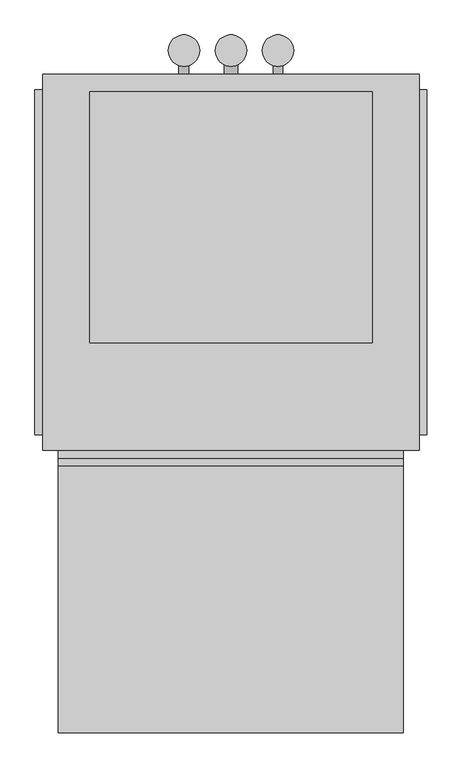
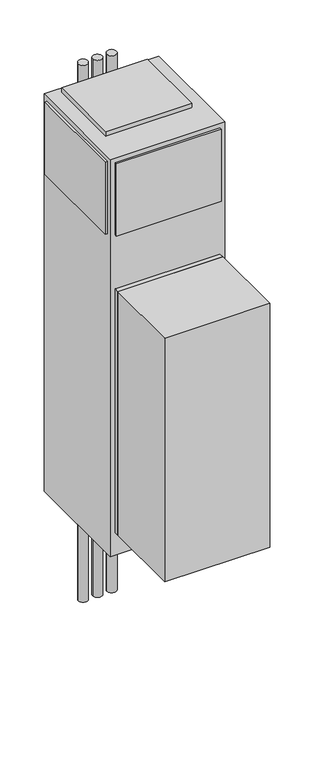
"""IFC4 building model written with IfcOpenShell, lengths in millimetres: proxy geometry, Concealed_Universal_Modular_Fan_Coil_Unit_-_MUY_-_IEC_-_2-Pipe_Cool-EHeat_-_WithRisers_2022 : Size 12 - 277v/60Hz/1Ph - 4 Row 8.0kW."""

from ifc_helpers import new_model, si_unit, point, frame, frame_2d, origin, origin_with_axes, place, context, project, spatial, polyline, circle_curve, trimmed, segment, composite_curve, outline, extrude, source, transform, mapped, element, save


def mechanical_equipment_03a785ce(model_context):
    return source(origin(), model_context, "Body", "SweptSolid", [
        extrude(outline(polyline([(1356.1480703, 341.3868862), (1346.2, 373.5602728), (1488.3709244, 373.5602728), (1465.3489183, 341.3868862), (1356.1480703, 341.3868862)])), frame((0.0, -393.7, 0.0), z_axis=(0.0, 1.0, 0.0), x_axis=(0.0, 0.0, 1.0)), (0.0, 0.0, 1.0), 3.175),
        extrude(outline(polyline([(1435.1473557, 380.3186058), (1431.9449632, 406.4), (1461.1738042, 406.4), (1469.2382193, 380.3186058), (1435.1473557, 380.3186058)])), frame((0.0, -393.7, 0.0), z_axis=(0.0, 1.0, 0.0), x_axis=(0.0, 0.0, 1.0)), (0.0, 0.0, 1.0), 3.175),
        extrude(outline(polyline([(1383.2838288, 406.4), (1379.6183279, 380.3186058), (1346.2, 380.3186058), (1354.8342372, 406.4), (1383.2838288, 406.4)])), frame((0.0, -393.7, 0.0), z_axis=(0.0, 1.0, 0.0), x_axis=(0.0, 0.0, 1.0)), (0.0, 0.0, 1.0), 3.175),
        extrude(outline(polyline([(1422.5989903, 406.4), (1424.8808166, 380.3186058), (1388.9432681, 380.3186058), (1391.6845331, 406.4), (1422.5989903, 406.4)])), frame((0.0, -393.7, 0.0), z_axis=(0.0, 1.0, 0.0), x_axis=(0.0, 0.0, 1.0)), (0.0, 0.0, 1.0), 3.175),
        extrude(outline(composite_curve([segment(trimmed(circle_curve(frame_2d((381.0, 282.575)), 25.4), [point((355.6, 282.575))], [point((406.4, 282.575))], False, "CARTESIAN"), True, "CONTINUOUS"), segment(trimmed(circle_curve(frame_2d((381.0, 282.575)), 25.4), [point((406.4, 282.575))], [point((355.6, 282.575))], False, "CARTESIAN"), True, "CONTINUOUS")], self_intersect=False)), frame((0.0, 0.0, -711.2), z_axis=(0.0, 0.0, 1.0), x_axis=(1.0, 0.0, 0.0)), (0.0, 0.0, 1.0), 3022.6),
        extrude(outline(composite_curve([segment(trimmed(circle_curve(frame_2d((457.2, 282.575)), 25.4), [point((431.8, 282.575))], [point((482.6, 282.575))], False, "CARTESIAN"), True, "CONTINUOUS"), segment(trimmed(circle_curve(frame_2d((457.2, 282.575)), 25.4), [point((482.6, 282.575))], [point((431.8, 282.575))], False, "CARTESIAN"), True, "CONTINUOUS")], self_intersect=False)), frame((0.0, 0.0, -711.2), z_axis=(0.0, 0.0, 1.0), x_axis=(1.0, 0.0, 0.0)), (0.0, 0.0, 1.0), 3022.6),
        extrude(outline(composite_curve([segment(trimmed(circle_curve(frame_2d((533.4, 282.575)), 25.4), [point((508.0, 282.575))], [point((558.8, 282.575))], False, "CARTESIAN"), True, "CONTINUOUS"), segment(trimmed(circle_curve(frame_2d((533.4, 282.575)), 25.4), [point((558.8, 282.575))], [point((508.0, 282.575))], False, "CARTESIAN"), True, "CONTINUOUS")], self_intersect=False)), frame((0.0, 0.0, -711.2), z_axis=(0.0, 0.0, 1.0), x_axis=(1.0, 0.0, 0.0)), (0.0, 0.0, 1.0), 3022.6),
        extrude(outline(polyline([(736.6, -390.525), (736.6, -822.325), (177.8, -822.325), (177.8, -390.525), (736.6, -390.525)])), frame((0.0, 0.0, 127.0), z_axis=(0.0, 0.0, 1.0), x_axis=(1.0, 0.0, 0.0)), (0.0, 0.0, 1.0), 1371.6),
        extrude(outline(composite_curve([segment(trimmed(circle_curve(frame_2d((990.6, 533.4)), 7.9375), [point((990.6, 525.4625))], [point((990.6, 541.3375))], False, "CARTESIAN"), True, "CONTINUOUS"), segment(trimmed(circle_curve(frame_2d((990.6, 533.4)), 7.9375), [point((990.6, 541.3375))], [point((990.6, 525.4625))], False, "CARTESIAN"), True, "CONTINUOUS")], self_intersect=False)), frame((0.0, 244.475, 0.0), z_axis=(0.0, 1.0, 0.0), x_axis=(0.0, 0.0, 1.0)), (0.0, 0.0, 1.0), 50.8),
        extrude(outline(composite_curve([segment(trimmed(circle_curve(frame_2d((990.6, 381.0)), 7.9375), [point((990.6, 373.0625))], [point((990.6, 388.9375))], False, "CARTESIAN"), True, "CONTINUOUS"), segment(trimmed(circle_curve(frame_2d((990.6, 381.0)), 7.9375), [point((990.6, 388.9375))], [point((990.6, 373.0625))], False, "CARTESIAN"), True, "CONTINUOUS")], self_intersect=False)), frame((0.0, 244.475, 0.0), z_axis=(0.0, 1.0, 0.0), x_axis=(0.0, 0.0, 1.0)), (0.0, 0.0, 1.0), 50.8),
        extrude(outline(composite_curve([segment(trimmed(circle_curve(frame_2d((76.2, 457.2)), 11.1125), [point((76.2, 446.0875))], [point((76.2, 468.3125))], False, "CARTESIAN"), True, "CONTINUOUS"), segment(trimmed(circle_curve(frame_2d((76.2, 457.2)), 11.1125), [point((76.2, 468.3125))], [point((76.2, 446.0875))], False, "CARTESIAN"), True, "CONTINUOUS")], self_intersect=False)), frame((0.0, 244.475, 0.0), z_axis=(0.0, 1.0, 0.0), x_axis=(0.0, 0.0, 1.0)), (0.0, 0.0, 1.0), 50.8),
        extrude(outline(polyline([(685.8, 215.9), (685.8, -190.5), (228.6, -190.5), (228.6, 215.9), (685.8, 215.9)])), frame((0.0, 0.0, 2235.2), z_axis=(0.0, 0.0, 1.0), x_axis=(1.0, 0.0, 0.0)), (0.0, 0.0, 1.0), 25.4),
        extrude(outline(polyline([(139.7, -339.725), (139.7, 219.075), (152.4, 219.075), (152.4, -339.725), (139.7, -339.725)])), frame((0.0, 0.0, 1803.4), z_axis=(0.0, 0.0, 1.0), x_axis=(1.0, 0.0, 0.0)), (0.0, 0.0, 1.0), 406.4),
        extrude(outline(polyline([(774.7, 219.075), (774.7, -339.725), (762.0, -339.725), (762.0, 219.075), (774.7, 219.075)])), frame((0.0, 0.0, 1803.4), z_axis=(0.0, 0.0, 1.0), x_axis=(1.0, 0.0, 0.0)), (0.0, 0.0, 1.0), 406.4),
        extrude(outline(polyline([(736.6, -377.825), (177.8, -377.825), (177.8, -365.125), (736.6, -365.125), (736.6, -377.825)])), frame((0.0, 0.0, 1803.4), z_axis=(0.0, 0.0, 1.0), x_axis=(1.0, 0.0, 0.0)), (0.0, 0.0, 1.0), 406.4),
        extrude(outline(polyline([(736.6, -390.525), (177.8, -390.525), (177.8, -365.125), (736.6, -365.125), (736.6, -390.525)])), frame((0.0, 0.0, 127.0), z_axis=(0.0, 0.0, 1.0), x_axis=(1.0, 0.0, 0.0)), (0.0, 0.0, 1.0), 1371.6),
        extrude(outline(polyline([(762.0, 244.475), (762.0, -365.125), (152.4, -365.125), (152.4, 244.475), (762.0, 244.475)])), origin_with_axes(), (0.0, 0.0, 1.0), 2235.2),
    ])


if __name__ == "__main__":
    model = new_model("IFC4")
    model_context = context("Model", 3, world=origin())
    ifc_project = project(units=[si_unit("LENGTHUNIT", "METRE", prefix="MILLI")], contexts=[model_context])
    site = spatial("IfcSite", under=ifc_project)
    building = spatial("IfcBuilding", under=site)
    placement = place(None, origin())
    mechanical_equipment_shape = mechanical_equipment_03a785ce(model_context)
    element("IfcBuildingElementProxy", 1, Name="Concealed_Universal_Modular_Fan_Coil_Unit_-_MUY_-_IEC_-_2-Pipe_Cool-EHeat_-_WithRisers_2022 : Size 12 - 277v/60Hz/1Ph - 4 Row 8.0kW", ObjectType="Concealed_Universal_Modular_Fan_Coil_Unit_-_MUY_-_IEC_-_2-Pipe_Cool-EHeat_-_WithRisers_2022 : Size 12 - 277v/60Hz/1Ph - 4 Row 8.0kW", at=placement, inside=building, context=model_context, shape_type="MappedRepresentation", body=[
        mapped(mechanical_equipment_shape, transform((0.0, 0.0, 0.0), x_axis=(1.0, 0.0, 0.0), y_axis=(0.0, 1.0, 0.0), z_axis=(0.0, 0.0, 1.0))),
    ])
    save(model, "model.ifc")
